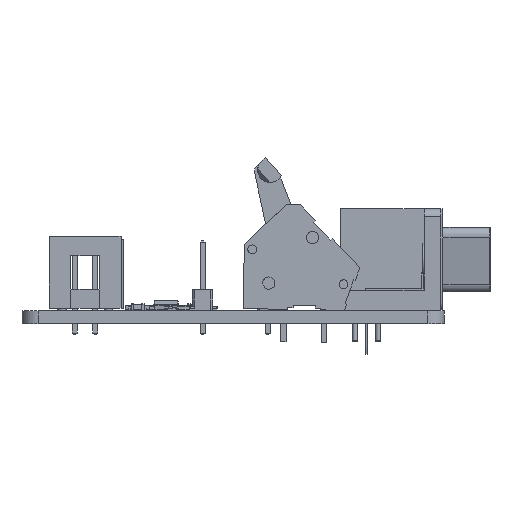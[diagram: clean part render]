
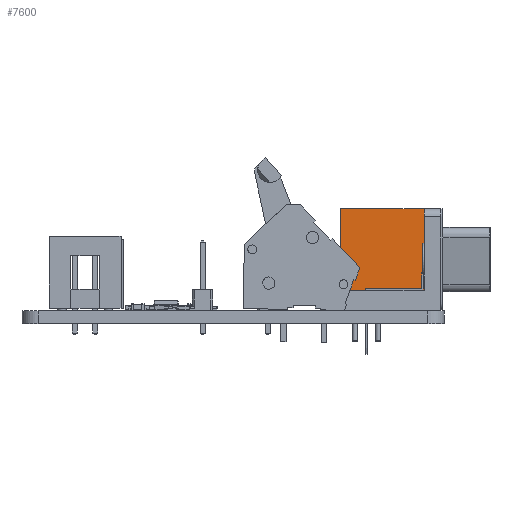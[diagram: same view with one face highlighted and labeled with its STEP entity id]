
A CAD part, front view. The second image highlights one B-rep face of the part: STEP entity #7600.
In plain terms, the highlighted planar face has unit normal (0, -1, 0) as drawn and (-1, 0, 0) by its records, which use the part's own axes.
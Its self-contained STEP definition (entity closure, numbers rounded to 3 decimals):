
#4475 = PLANE('',#4476);
#4476 = AXIS2_PLACEMENT_3D('',#4477,#4478,#4479);
#4477 = CARTESIAN_POINT('',(20.94,-10.54,12.5));
#4478 = DIRECTION('',(0.,0.,1.));
#4479 = DIRECTION('',(-1.,0.,0.));
#4776 = PLANE('',#4777);
#4777 = AXIS2_PLACEMENT_3D('',#4778,#4779,#4780);
#4778 = CARTESIAN_POINT('',(5.54,1.8,6.25));
#4779 = DIRECTION('',(0.,-1.,0.));
#4780 = DIRECTION('',(1.,0.,0.));
#5423 = PLANE('',#5424);
#5424 = AXIS2_PLACEMENT_3D('',#5425,#5426,#5427);
#5425 = CARTESIAN_POINT('',(-7.86,-8.54,8.75));
#5426 = DIRECTION('',(0.,-1.,0.));
#5427 = DIRECTION('',(1.,0.,0.));
#5451 = PLANE('',#5452);
#5452 = AXIS2_PLACEMENT_3D('',#5453,#5454,#5455);
#5453 = CARTESIAN_POINT('',(-11.36,-8.54,2.5));
#5454 = DIRECTION('',(0.,0.,-1.));
#5455 = DIRECTION('',(1.,0.,0.));
#5751 = VERTEX_POINT('',#5752);
#5752 = CARTESIAN_POINT('',(-4.36,1.8,12.5));
#5773 = EDGE_CURVE('',#5774,#5751,#5776,.T.);
#5774 = VERTEX_POINT('',#5775);
#5775 = CARTESIAN_POINT('',(-4.36,-8.54,12.5));
#5776 = SURFACE_CURVE('',#5777,(#5781,#5788),.PCURVE_S1.);
#5777 = LINE('',#5778,#5779);
#5778 = CARTESIAN_POINT('',(-4.36,-9.54,12.5));
#5779 = VECTOR('',#5780,1.);
#5780 = DIRECTION('',(0.,1.,0.));
#5781 = PCURVE('',#4475,#5782);
#5782 = DEFINITIONAL_REPRESENTATION('',(#5783),#5787);
#5783 = LINE('',#5784,#5785);
#5784 = CARTESIAN_POINT('',(25.3,-1.));
#5785 = VECTOR('',#5786,1.);
#5786 = DIRECTION('',(0.,-1.));
#5787 = ( GEOMETRIC_REPRESENTATION_CONTEXT(2) 
PARAMETRIC_REPRESENTATION_CONTEXT() REPRESENTATION_CONTEXT('2D SPACE',''
  ) );
#5788 = PCURVE('',#5789,#5794);
#5789 = PLANE('',#5790);
#5790 = AXIS2_PLACEMENT_3D('',#5791,#5792,#5793);
#5791 = CARTESIAN_POINT('',(-4.36,-8.54,2.5));
#5792 = DIRECTION('',(1.,0.,0.));
#5793 = DIRECTION('',(0.,0.,1.));
#5794 = DEFINITIONAL_REPRESENTATION('',(#5795),#5799);
#5795 = LINE('',#5796,#5797);
#5796 = CARTESIAN_POINT('',(10.,1.));
#5797 = VECTOR('',#5798,1.);
#5798 = DIRECTION('',(0.,-1.));
#5799 = ( GEOMETRIC_REPRESENTATION_CONTEXT(2) 
PARAMETRIC_REPRESENTATION_CONTEXT() REPRESENTATION_CONTEXT('2D SPACE',''
  ) );
#6168 = EDGE_CURVE('',#6169,#5751,#6171,.T.);
#6169 = VERTEX_POINT('',#6170);
#6170 = CARTESIAN_POINT('',(-4.36,1.8,2.5));
#6171 = SURFACE_CURVE('',#6172,(#6176,#6183),.PCURVE_S1.);
#6172 = LINE('',#6173,#6174);
#6173 = CARTESIAN_POINT('',(-4.36,1.8,4.375));
#6174 = VECTOR('',#6175,1.);
#6175 = DIRECTION('',(0.,0.,1.));
#6176 = PCURVE('',#4776,#6177);
#6177 = DEFINITIONAL_REPRESENTATION('',(#6178),#6182);
#6178 = LINE('',#6179,#6180);
#6179 = CARTESIAN_POINT('',(-9.9,-1.875));
#6180 = VECTOR('',#6181,1.);
#6181 = DIRECTION('',(0.,1.));
#6182 = ( GEOMETRIC_REPRESENTATION_CONTEXT(2) 
PARAMETRIC_REPRESENTATION_CONTEXT() REPRESENTATION_CONTEXT('2D SPACE',''
  ) );
#6183 = PCURVE('',#5789,#6184);
#6184 = DEFINITIONAL_REPRESENTATION('',(#6185),#6189);
#6185 = LINE('',#6186,#6187);
#6186 = CARTESIAN_POINT('',(1.875,-10.34));
#6187 = VECTOR('',#6188,1.);
#6188 = DIRECTION('',(1.,0.));
#6189 = ( GEOMETRIC_REPRESENTATION_CONTEXT(2) 
PARAMETRIC_REPRESENTATION_CONTEXT() REPRESENTATION_CONTEXT('2D SPACE',''
  ) );
#7235 = VERTEX_POINT('',#7236);
#7236 = CARTESIAN_POINT('',(-4.36,-8.54,2.5));
#7257 = EDGE_CURVE('',#7235,#5774,#7258,.T.);
#7258 = SURFACE_CURVE('',#7259,(#7263,#7270),.PCURVE_S1.);
#7259 = LINE('',#7260,#7261);
#7260 = CARTESIAN_POINT('',(-4.36,-8.54,2.5));
#7261 = VECTOR('',#7262,1.);
#7262 = DIRECTION('',(0.,0.,1.));
#7263 = PCURVE('',#5423,#7264);
#7264 = DEFINITIONAL_REPRESENTATION('',(#7265),#7269);
#7265 = LINE('',#7266,#7267);
#7266 = CARTESIAN_POINT('',(3.5,-6.25));
#7267 = VECTOR('',#7268,1.);
#7268 = DIRECTION('',(0.,1.));
#7269 = ( GEOMETRIC_REPRESENTATION_CONTEXT(2) 
PARAMETRIC_REPRESENTATION_CONTEXT() REPRESENTATION_CONTEXT('2D SPACE',''
  ) );
#7270 = PCURVE('',#5789,#7271);
#7271 = DEFINITIONAL_REPRESENTATION('',(#7272),#7276);
#7272 = LINE('',#7273,#7274);
#7273 = CARTESIAN_POINT('',(0.,0.));
#7274 = VECTOR('',#7275,1.);
#7275 = DIRECTION('',(1.,0.));
#7276 = ( GEOMETRIC_REPRESENTATION_CONTEXT(2) 
PARAMETRIC_REPRESENTATION_CONTEXT() REPRESENTATION_CONTEXT('2D SPACE',''
  ) );
#7312 = EDGE_CURVE('',#7235,#6169,#7313,.T.);
#7313 = SURFACE_CURVE('',#7314,(#7318,#7325),.PCURVE_S1.);
#7314 = LINE('',#7315,#7316);
#7315 = CARTESIAN_POINT('',(-4.36,-8.54,2.5));
#7316 = VECTOR('',#7317,1.);
#7317 = DIRECTION('',(0.,1.,0.));
#7318 = PCURVE('',#5451,#7319);
#7319 = DEFINITIONAL_REPRESENTATION('',(#7320),#7324);
#7320 = LINE('',#7321,#7322);
#7321 = CARTESIAN_POINT('',(7.,0.));
#7322 = VECTOR('',#7323,1.);
#7323 = DIRECTION('',(0.,-1.));
#7324 = ( GEOMETRIC_REPRESENTATION_CONTEXT(2) 
PARAMETRIC_REPRESENTATION_CONTEXT() REPRESENTATION_CONTEXT('2D SPACE',''
  ) );
#7325 = PCURVE('',#5789,#7326);
#7326 = DEFINITIONAL_REPRESENTATION('',(#7327),#7331);
#7327 = LINE('',#7328,#7329);
#7328 = CARTESIAN_POINT('',(0.,0.));
#7329 = VECTOR('',#7330,1.);
#7330 = DIRECTION('',(0.,-1.));
#7331 = ( GEOMETRIC_REPRESENTATION_CONTEXT(2) 
PARAMETRIC_REPRESENTATION_CONTEXT() REPRESENTATION_CONTEXT('2D SPACE',''
  ) );
#7600 = ADVANCED_FACE('',(#7601),#5789,.F.);
#7601 = FACE_BOUND('',#7602,.F.);
#7602 = EDGE_LOOP('',(#7603,#7604,#7605,#7606));
#7603 = ORIENTED_EDGE('',*,*,#7257,.F.);
#7604 = ORIENTED_EDGE('',*,*,#7312,.T.);
#7605 = ORIENTED_EDGE('',*,*,#6168,.T.);
#7606 = ORIENTED_EDGE('',*,*,#5773,.F.);
